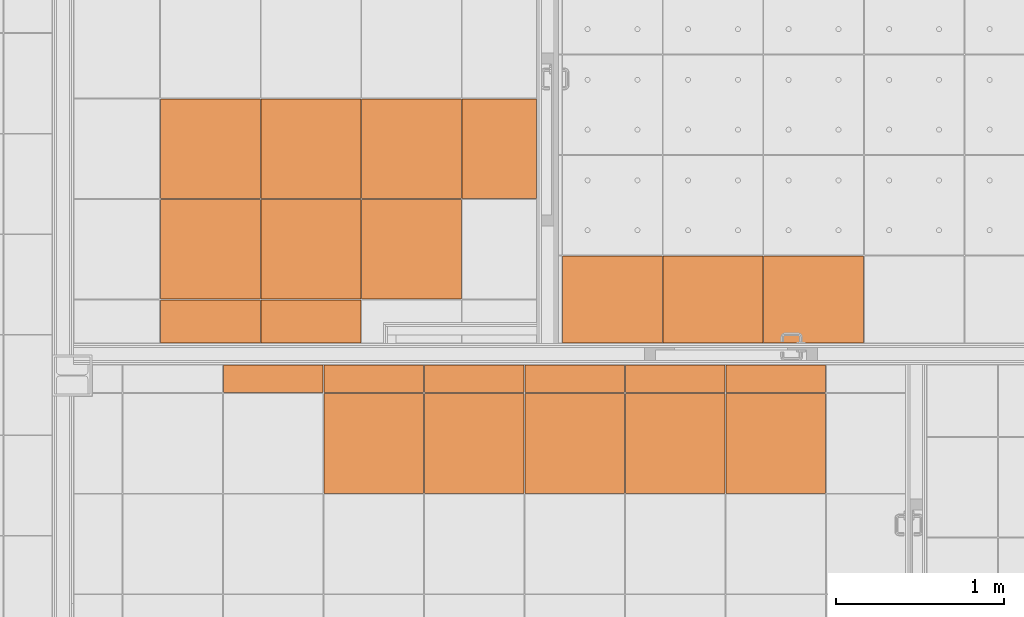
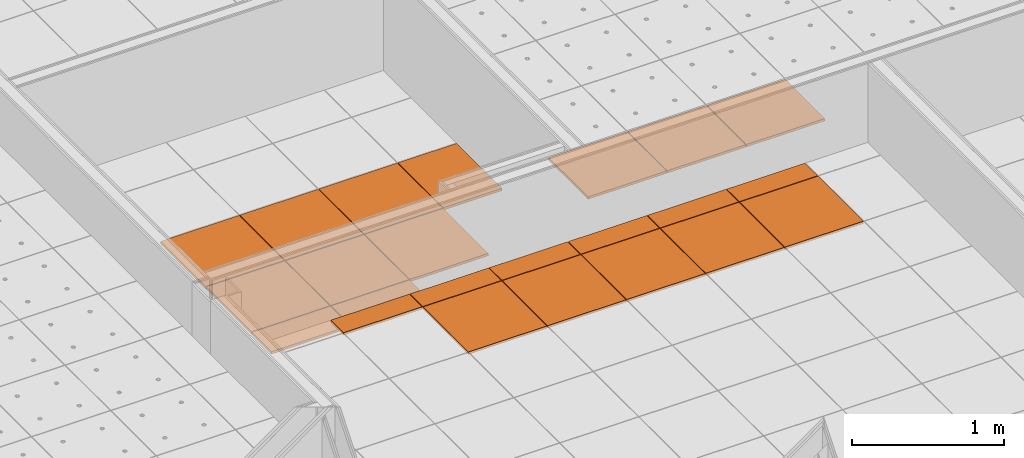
# One storey, part 284 of 338: 23 proxies, 3 elements without a shape of their own.
"""IFC2X3 building model written with IfcOpenShell, lengths in millimetres."""

from ifc_helpers import new_model, entity, si_unit, converted_unit, derived_unit, money_unit, direction, frame, origin_with_axes, place, context, subcontext, project, spatial, faceted_brep, source, transform, mapped, material, type_object, type_shapes, element, aggregate, save


model = new_model("IFC2X3")

# Units and contexts
model_context = context("Model", 3, precision=0.01, world=origin_with_axes(), true_north=direction((0.0, 1.0)))
plan_context = context("Plan", 3, precision=0.01, world=origin_with_axes(), true_north=direction((0.0, 1.0)))
body_context = subcontext(model_context, "Body", "Model", "MODEL_VIEW")
ifc_project = project(units=[si_unit("LENGTHUNIT", "METRE", prefix="MILLI"), si_unit("AREAUNIT", "SQUARE_METRE"), si_unit("VOLUMEUNIT", "CUBIC_METRE"), converted_unit("PLANEANGLEUNIT", "DEGREE", entity("IfcPlaneAngleMeasure", 0.0174532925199), si_unit("PLANEANGLEUNIT", "RADIAN"), dimensions=[0, 0, 0, 0, 0, 0, 0]), money_unit("EUR"), converted_unit("TIMEUNIT", "Year", entity("IfcTimeMeasure", 31556926.0), si_unit("TIMEUNIT", "SECOND"), dimensions=[0, 0, 1, 0, 0, 0, 0]), si_unit("MASSUNIT", "GRAM", prefix="KILO"), si_unit("THERMODYNAMICTEMPERATUREUNIT", "DEGREE_CELSIUS"), si_unit("LUMINOUSINTENSITYUNIT", "LUMEN"), si_unit("ENERGYUNIT", "JOULE", prefix="MEGA"), derived_unit("THERMALCONDUCTANCEUNIT", [(si_unit("POWERUNIT", "WATT"), 1), (si_unit("LENGTHUNIT", "METRE"), -1), (si_unit("THERMODYNAMICTEMPERATUREUNIT", "KELVIN"), -1)]), derived_unit("SPECIFICHEATCAPACITYUNIT", [(si_unit("ENERGYUNIT", "JOULE"), 1), (si_unit("MASSUNIT", "GRAM", prefix="KILO"), -1), (si_unit("THERMODYNAMICTEMPERATUREUNIT", "KELVIN"), -1)]), derived_unit("MASSDENSITYUNIT", [(si_unit("MASSUNIT", "GRAM", prefix="KILO"), 1), (si_unit("VOLUMEUNIT", "CUBIC_METRE"), -1)])], contexts=[model_context, plan_context])

# Site, building, storey
site_placement = place(None, origin_with_axes())
site = spatial("IfcSite", under=ifc_project, at=site_placement, Name="Fortuinstraat Woensdrecht", CompositionType="ELEMENT")
building_placement = place(site_placement, origin_with_axes())
building = spatial("IfcBuilding", under=site, at=building_placement, Name="IKC Fortuna", CompositionType="ELEMENT")
storey_placement = place(building_placement, origin_with_axes())
storey = spatial("IfcBuildingStorey", under=building, at=storey_placement, Name="00 begane grond", CompositionType="ELEMENT", Elevation=0.0)

# Covering, proxies
covering_type = type_object("IfcCoveringType", Name="Curtain Wall Type", PredefinedType="CEILING")
covering_1_placement = place(storey_placement, frame((20835.6898058, 28819.9024925, 2810.0), z_axis=(0.0, 0.0, 1.0), x_axis=(1.0, 0.0, 0.0)))
covering_1 = element("IfcCovering", 1, at=covering_1_placement, inside=storey, type_object=covering_type, Name="45_Plafondafwerking_P02", PredefinedType="CEILING")
ifc_material = material(Name="Gipsplaat")
building_element_proxy_type_1 = type_object("IfcBuildingElementProxyType", Name="Distinct Panel 600 x 600 x 20", PredefinedType="NOTDEFINED")
shared_shape_1 = source(origin_with_axes(), body_context, "Body", "Brep", [
    faceted_brep([(2.49999999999, 2.5, -10.0), (597.5, 2.49999999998, -10.0), (597.5, 2.49999999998, 10.0), (2.49999999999, 2.5, 10.0), (2.50000000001, 597.5, -10.0), (597.5, 597.5, -10.0), (597.5, 597.5, 10.0), (2.50000000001, 597.5, 10.0)], [[[0, 1, 2, 3]], [[0, 4, 5, 1]], [[1, 5, 6, 2]], [[3, 2, 6, 7]], [[4, 0, 3, 7]], [[5, 4, 7, 6]]]),
])
proxy_1_placement = place(covering_1_placement, frame((558.754846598, 600.0, 0.0), z_axis=(0.0, 0.0, 1.0), x_axis=(1.0, 0.0, 0.0)))
proxy_1 = element("IfcBuildingElementProxy", 2, at=proxy_1_placement, type_object=building_element_proxy_type_1, material=ifc_material, Name="__Panel-D", context=body_context, shape_type="MappedRepresentation", body=[
    mapped(shared_shape_1, transform((300.0, 300.0, 0.0), x_axis=(-1.0, 0.0, 0.0), y_axis=(0.0, -1.0, 0.0), z_axis=(0.0, 0.0, 1.0))),
])
proxy_2_placement = place(covering_1_placement, frame((1158.7548466, 0.0, 0.0), z_axis=(0.0, 0.0, 1.0), x_axis=(1.0, 0.0, 0.0)))
proxy_2 = element("IfcBuildingElementProxy", 3, at=proxy_2_placement, type_object=building_element_proxy_type_1, material=ifc_material, Name="__Panel-D", context=body_context, shape_type="MappedRepresentation", body=[
    mapped(shared_shape_1, transform((300.0, 300.0, 0.0), x_axis=(-1.0, 0.0, 0.0), y_axis=(0.0, -1.0, 0.0), z_axis=(0.0, 0.0, 1.0))),
])
proxy_3_placement = place(covering_1_placement, frame((1158.7548466, 600.0, 0.0), z_axis=(0.0, 0.0, 1.0), x_axis=(1.0, 0.0, 0.0)))
proxy_3 = element("IfcBuildingElementProxy", 4, at=proxy_3_placement, type_object=building_element_proxy_type_1, material=ifc_material, Name="__Panel-D", context=body_context, shape_type="MappedRepresentation", body=[
    mapped(shared_shape_1, transform((300.0, 300.0, 0.0), x_axis=(-1.0, 0.0, 0.0), y_axis=(0.0, -1.0, 0.0), z_axis=(0.0, 0.0, 1.0))),
])
shared_shape_2 = source(origin_with_axes(), body_context, "Body", "Brep", [
    faceted_brep([(2.5000069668, 2.4999963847, -10.0), (597.499995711, 2.50000275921, -10.0), (597.499995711, 2.50000275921, 10.0), (2.5000069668, 2.4999963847, 10.0), (2.50000214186, 597.499967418, -10.0), (597.499990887, 597.499973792, -10.0), (597.499990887, 597.499973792, 10.0), (2.50000214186, 597.499967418, 10.0)], [[[0, 1, 2, 3]], [[0, 4, 5, 1]], [[1, 5, 6, 2]], [[3, 2, 6, 7]], [[4, 0, 3, 7]], [[5, 4, 7, 6]]]),
])
proxy_4_placement = place(covering_1_placement, frame((558.754846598, 0.0, 0.0), z_axis=(0.0, 0.0, 1.0), x_axis=(1.0, 0.0, 0.0)))
proxy_4 = element("IfcBuildingElementProxy", 5, at=proxy_4_placement, type_object=building_element_proxy_type_1, material=ifc_material, Name="__Panel-D", context=body_context, shape_type="MappedRepresentation", body=[
    mapped(shared_shape_2, transform((300.0, 300.0, 0.0), x_axis=(-1.0, 0.0, 0.0), y_axis=(0.0, -1.0, 0.0), z_axis=(0.0, 0.0, 1.0))),
])
proxy_5_placement = place(covering_1_placement, frame((1758.7548466, 0.0, 0.0), z_axis=(0.0, 0.0, 1.0), x_axis=(1.0, 0.0, 0.0)))
proxy_5 = element("IfcBuildingElementProxy", 6, at=proxy_5_placement, type_object=building_element_proxy_type_1, material=ifc_material, Name="__Panel-D", context=body_context, shape_type="MappedRepresentation", body=[
    mapped(shared_shape_2, transform((300.0, 300.0, 0.0), x_axis=(-1.0, 0.0, 0.0), y_axis=(0.0, -1.0, 0.0), z_axis=(0.0, 0.0, 1.0))),
])
proxy_6_placement = place(covering_1_placement, frame((1758.7548466, 600.0, 0.0), z_axis=(0.0, 0.0, 1.0), x_axis=(1.0, 0.0, 0.0)))
proxy_6 = element("IfcBuildingElementProxy", 7, at=proxy_6_placement, type_object=building_element_proxy_type_1, material=ifc_material, Name="__Panel-D", context=body_context, shape_type="MappedRepresentation", body=[
    mapped(shared_shape_2, transform((300.0, 300.0, 0.0), x_axis=(-1.0, 0.0, 0.0), y_axis=(0.0, -1.0, 0.0), z_axis=(0.0, 0.0, 1.0))),
])

covering_2_placement = place(storey_placement, frame((21169.4446171, 27661.0834994, 3010.0), z_axis=(0.0, 0.0, 1.0), x_axis=(1.0, 0.0, 0.0)))
covering_2 = element("IfcCovering", 8, at=covering_2_placement, inside=storey, type_object=covering_type, Name="45_Plafondafwerking_P04", PredefinedType="CEILING")
shared_shape_3 = source(origin_with_axes(), body_context, "Body", "Brep", [
    faceted_brep([(-2.49999999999, 2.5, -10.0), (-2.49999999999, 2.5, 10.0), (-597.5, 2.49999999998, 10.0), (-597.5, 2.49999999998, -10.0), (-2.50000000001, 597.5, -10.0), (-2.50000000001, 597.5, 10.0), (-597.5, 597.5, 10.0), (-597.5, 597.5, -10.0)], [[[0, 1, 2, 3]], [[4, 5, 1, 0]], [[1, 5, 6, 2]], [[3, 2, 6, 7]], [[0, 3, 7, 4]], [[7, 6, 5, 4]]]),
])
proxy_7_placement = place(covering_2_placement, frame((2400.0, 0.0, 0.0), z_axis=(0.0, 0.0, 1.0), x_axis=(1.0, 0.0, 0.0)))
proxy_7 = element("IfcBuildingElementProxy", 9, at=proxy_7_placement, type_object=building_element_proxy_type_1, material=ifc_material, Name="__Panel-D", context=body_context, shape_type="MappedRepresentation", body=[
    mapped(shared_shape_3, transform((-300.0, 300.0, 0.0), x_axis=(-1.0, 0.0, 0.0), y_axis=(0.0, -1.0, 0.0), z_axis=(0.0, 0.0, 1.0))),
])
building_element_proxy_type_2 = type_object("IfcBuildingElementProxyType", Name="Distinct Panel 600 x 171 x 20", PredefinedType="NOTDEFINED")
shared_shape_4 = source(origin_with_axes(), body_context, "Body", "Brep", [
    faceted_brep([(-2.5, 431.18090623, -10.0), (-2.5, 431.18090623, 10.0), (-597.5, 431.18090623, 10.0), (-597.5, 431.18090623, -10.0), (-2.50000000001, 597.5, -10.0), (-2.50000000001, 597.5, 10.0), (-597.5, 597.5, 10.0), (-597.5, 597.5, -10.0)], [[[0, 1, 2, 3]], [[4, 5, 1, 0]], [[1, 5, 6, 2]], [[3, 2, 6, 7]], [[0, 3, 7, 4]], [[7, 6, 5, 4]]]),
])
proxy_8_placement = place(covering_2_placement, frame((3600.0, 385.659548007, 1.36335387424e-10), z_axis=(0.0, 0.0, 1.0), x_axis=(1.0, 0.0, 0.0)))
proxy_8 = element("IfcBuildingElementProxy", 10, at=proxy_8_placement, type_object=building_element_proxy_type_2, material=ifc_material, Name="__Panel-D", context=body_context, shape_type="MappedRepresentation", body=[
    mapped(shared_shape_4, transform((-300.0, 514.340451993, 0.0), x_axis=(-1.0, 0.0, 0.0), y_axis=(0.0, -1.0, 0.0), z_axis=(0.0, 0.0, 1.0))),
])
proxy_9_placement = place(covering_2_placement, frame((3000.0, 385.659548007, 1.16795462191e-10), z_axis=(0.0, 0.0, 1.0), x_axis=(1.0, 0.0, 0.0)))
proxy_9 = element("IfcBuildingElementProxy", 11, at=proxy_9_placement, type_object=building_element_proxy_type_2, material=ifc_material, Name="__Panel-D", context=body_context, shape_type="MappedRepresentation", body=[
    mapped(shared_shape_4, transform((-300.0, 514.340451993, 0.0), x_axis=(-1.0, 0.0, 0.0), y_axis=(0.0, -1.0, 0.0), z_axis=(0.0, 0.0, 1.0))),
])
proxy_10_placement = place(covering_2_placement, frame((2400.0, 385.659548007, 0.0), z_axis=(0.0, 0.0, 1.0), x_axis=(1.0, 0.0, 0.0)))
proxy_10 = element("IfcBuildingElementProxy", 12, at=proxy_10_placement, type_object=building_element_proxy_type_2, material=ifc_material, Name="__Panel-D", context=body_context, shape_type="MappedRepresentation", body=[
    mapped(shared_shape_4, transform((-300.0, 514.340451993, 0.0), x_axis=(-1.0, 0.0, 0.0), y_axis=(0.0, -1.0, 0.0), z_axis=(0.0, 0.0, 1.0))),
])
shared_shape_5 = source(origin_with_axes(), body_context, "Body", "Brep", [
    faceted_brep([(-2.50000188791, 2.50000518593, -10.0), (-2.50000188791, 2.50000518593, 10.0), (-597.499994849, 2.50000192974, 10.0), (-597.499994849, 2.50000192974, -10.0), (-2.50000514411, 597.499998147, -10.0), (-2.50000514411, 597.499998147, 10.0), (-597.499998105, 597.499994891, 10.0), (-597.499998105, 597.499994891, -10.0)], [[[0, 1, 2, 3]], [[4, 5, 1, 0]], [[1, 5, 6, 2]], [[3, 2, 6, 7]], [[0, 3, 7, 4]], [[7, 6, 5, 4]]]),
])
proxy_11_placement = place(covering_2_placement, frame((3600.0, -1.38555833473e-10, 1.36335387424e-10), z_axis=(0.0, 0.0, 1.0), x_axis=(1.0, 0.0, 0.0)))
proxy_11 = element("IfcBuildingElementProxy", 13, at=proxy_11_placement, type_object=building_element_proxy_type_1, material=ifc_material, Name="__Panel-D", context=body_context, shape_type="MappedRepresentation", body=[
    mapped(shared_shape_5, transform((-300.0, 300.0, 0.0), x_axis=(-1.0, 0.0, 0.0), y_axis=(0.0, -1.0, 0.0), z_axis=(0.0, 0.0, 1.0))),
])
proxy_12_placement = place(covering_2_placement, frame((3000.0, -1.13686837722e-10, 1.16795462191e-10), z_axis=(0.0, 0.0, 1.0), x_axis=(1.0, 0.0, 0.0)))
proxy_12 = element("IfcBuildingElementProxy", 14, at=proxy_12_placement, type_object=building_element_proxy_type_1, material=ifc_material, Name="__Panel-D", context=body_context, shape_type="MappedRepresentation", body=[
    mapped(shared_shape_5, transform((-300.0, 300.0, 0.0), x_axis=(-1.0, 0.0, 0.0), y_axis=(0.0, -1.0, 0.0), z_axis=(0.0, 0.0, 1.0))),
])
shared_shape_6 = source(origin_with_axes(), body_context, "Body", "Brep", [
    faceted_brep([(-2.5, 431.18090623, -10.0), (-2.5, 431.18090623, 10.0), (-597.5, 431.18090623, 10.0), (-597.5, 431.18090623, -10.0), (-2.50000000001, 597.5, -10.0), (-2.50000000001, 597.5, 10.0), (-597.5, 597.5, 10.0), (-597.5, 597.5, -10.0)], [[[0, 1, 2, 3]], [[4, 5, 1, 0]], [[1, 5, 6, 2]], [[3, 2, 6, 7]], [[0, 3, 7, 4]], [[7, 6, 5, 4]]]),
])
proxy_13_placement = place(covering_2_placement, frame((1200.0, 385.659548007, 0.0), z_axis=(0.0, 0.0, 1.0), x_axis=(1.0, 0.0, 0.0)))
proxy_13 = element("IfcBuildingElementProxy", 15, at=proxy_13_placement, type_object=building_element_proxy_type_2, material=ifc_material, Name="__Panel-D", context=body_context, shape_type="MappedRepresentation", body=[
    mapped(shared_shape_6, transform((-300.0, 514.340451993, 0.0), x_axis=(-1.0, 0.0, 0.0), y_axis=(0.0, -1.0, 0.0), z_axis=(0.0, 0.0, 1.0))),
])
shared_shape_7 = source(origin_with_axes(), body_context, "Body", "Brep", [
    faceted_brep([(-2.5000069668, 2.4999963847, -10.0), (-2.5000069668, 2.4999963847, 10.0), (-597.499995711, 2.50000275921, 10.0), (-597.499995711, 2.50000275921, -10.0), (-2.50000214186, 597.499967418, -10.0), (-2.50000214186, 597.499967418, 10.0), (-597.499990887, 597.499973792, 10.0), (-597.499990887, 597.499973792, -10.0)], [[[0, 1, 2, 3]], [[4, 5, 1, 0]], [[1, 5, 6, 2]], [[3, 2, 6, 7]], [[0, 3, 7, 4]], [[7, 6, 5, 4]]]),
])
type_shapes(building_element_proxy_type_1, [shared_shape_1, shared_shape_2, shared_shape_3, shared_shape_5, shared_shape_7])
proxy_14_placement = place(covering_2_placement, frame((1800.0, 0.0, 0.0), z_axis=(0.0, 0.0, 1.0), x_axis=(1.0, 0.0, 0.0)))
proxy_14 = element("IfcBuildingElementProxy", 16, at=proxy_14_placement, type_object=building_element_proxy_type_1, material=ifc_material, Name="__Panel-D", context=body_context, shape_type="MappedRepresentation", body=[
    mapped(shared_shape_7, transform((-300.0, 300.0, 0.0), x_axis=(-1.0, 0.0, 0.0), y_axis=(0.0, -1.0, 0.0), z_axis=(0.0, 0.0, 1.0))),
])
proxy_15_placement = place(covering_2_placement, frame((1200.0, 0.0, 0.0), z_axis=(0.0, 0.0, 1.0), x_axis=(1.0, 0.0, 0.0)))
proxy_15 = element("IfcBuildingElementProxy", 17, at=proxy_15_placement, type_object=building_element_proxy_type_1, material=ifc_material, Name="__Panel-D", context=body_context, shape_type="MappedRepresentation", body=[
    mapped(shared_shape_7, transform((-300.0, 300.0, 0.0), x_axis=(-1.0, 0.0, 0.0), y_axis=(0.0, -1.0, 0.0), z_axis=(0.0, 0.0, 1.0))),
])
shared_shape_8 = source(origin_with_axes(), body_context, "Body", "Brep", [
    faceted_brep([(-2.5, 431.18090623, -10.0), (-2.5, 431.18090623, 10.0), (-597.5, 431.18090623, 10.0), (-597.5, 431.18090623, -10.0), (-2.50000000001, 597.5, -10.0), (-2.50000000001, 597.5, 10.0), (-597.5, 597.5, 10.0), (-597.5, 597.5, -10.0)], [[[0, 1, 2, 3]], [[4, 5, 1, 0]], [[1, 5, 6, 2]], [[3, 2, 6, 7]], [[0, 3, 7, 4]], [[7, 6, 5, 4]]]),
])
type_shapes(building_element_proxy_type_2, [shared_shape_4, shared_shape_6, shared_shape_8])
proxy_16_placement = place(covering_2_placement, frame((1800.0, 385.659548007, 0.0), z_axis=(0.0, 0.0, 1.0), x_axis=(1.0, 0.0, 0.0)))
proxy_16 = element("IfcBuildingElementProxy", 18, at=proxy_16_placement, type_object=building_element_proxy_type_2, material=ifc_material, Name="__Panel-D", context=body_context, shape_type="MappedRepresentation", body=[
    mapped(shared_shape_8, transform((-300.0, 514.340451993, 0.0), x_axis=(-1.0, 0.0, 0.0), y_axis=(0.0, -1.0, 0.0), z_axis=(0.0, 0.0, 1.0))),
])
proxy_17_placement = place(covering_2_placement, frame((600.0, 385.659548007, 0.0), z_axis=(0.0, 0.0, 1.0), x_axis=(1.0, 0.0, 0.0)))
proxy_17 = element("IfcBuildingElementProxy", 19, at=proxy_17_placement, type_object=building_element_proxy_type_2, material=ifc_material, Name="__Panel-D", context=body_context, shape_type="MappedRepresentation", body=[
    mapped(shared_shape_8, transform((-300.0, 514.340451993, 0.0), x_axis=(-1.0, 0.0, 0.0), y_axis=(0.0, -1.0, 0.0), z_axis=(0.0, 0.0, 1.0))),
])
aggregate(covering_2, [proxy_8, proxy_11, proxy_9, proxy_14, proxy_16, proxy_7, proxy_12, proxy_15, proxy_13, proxy_17, proxy_10])

# Proxy
building_element_proxy_type_3 = type_object("IfcBuildingElementProxyType", Name="Distinct Panel 450 x 600 x 20", PredefinedType="NOTDEFINED")
shared_shape_9 = source(origin_with_axes(), body_context, "Body", "Brep", [
    faceted_brep([(152.589639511, 2.5, -10.0), (597.5, 2.49999999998, -10.0), (597.5, 2.49999999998, 10.0), (152.589639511, 2.5, 10.0), (152.589639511, 597.5, -10.0), (597.5, 597.5, -10.0), (597.5, 597.5, 10.0), (152.589639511, 597.5, 10.0)], [[[0, 1, 2, 3]], [[0, 4, 5, 1]], [[1, 5, 6, 2]], [[3, 2, 6, 7]], [[4, 0, 3, 7]], [[5, 4, 7, 6]]]),
])
type_shapes(building_element_proxy_type_3, [shared_shape_9])
proxy_18_placement = place(covering_1_placement, frame((2283.71002588, 600.0, 0.0), z_axis=(0.0, 0.0, 1.0), x_axis=(1.0, 0.0, 0.0)))
proxy_18 = element("IfcBuildingElementProxy", 20, at=proxy_18_placement, type_object=building_element_proxy_type_3, material=ifc_material, Name="__Panel-D", context=body_context, shape_type="MappedRepresentation", body=[
    mapped(shared_shape_9, transform((375.044820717, 300.0, 0.0), x_axis=(-1.0, 0.0, 0.0), y_axis=(0.0, -1.0, 0.0), z_axis=(0.0, 0.0, 1.0))),
])

building_element_proxy_type_4 = type_object("IfcBuildingElementProxyType", Name="Distinct Panel 600 x 262 x 20", PredefinedType="NOTDEFINED")
shared_shape_10 = source(origin_with_axes(), body_context, "Body", "Brep", [
    faceted_brep([(2.5, 2.50000080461, -10.0), (597.5, 2.5000008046, -10.0), (597.5, 2.5000008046, 10.0), (2.5, 2.50000080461, 10.0), (2.5, 259.999902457, -10.0), (597.5, 259.999902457, -10.0), (597.5, 259.999902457, 10.0), (2.5, 259.999902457, 10.0)], [[[0, 1, 2, 3]], [[0, 4, 5, 1]], [[1, 5, 6, 2]], [[3, 2, 6, 7]], [[4, 0, 3, 7]], [[5, 4, 7, 6]]]),
])
type_shapes(building_element_proxy_type_4, [shared_shape_10])
proxy_19_placement = place(covering_1_placement, frame((558.754846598, -431.249951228, 0.0), z_axis=(0.0, 0.0, 1.0), x_axis=(1.0, 0.0, 0.0)))
proxy_19 = element("IfcBuildingElementProxy", 21, at=proxy_19_placement, type_object=building_element_proxy_type_4, material=ifc_material, Name="__Panel-D", context=body_context, shape_type="MappedRepresentation", body=[
    mapped(shared_shape_10, transform((300.0, 131.249951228, 0.0), x_axis=(-1.0, 0.0, 0.0), y_axis=(0.0, -1.0, 0.0), z_axis=(0.0, 0.0, 1.0))),
])

proxy_20_placement = place(covering_1_placement, frame((1158.7548466, -431.249951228, 0.0), z_axis=(0.0, 0.0, 1.0), x_axis=(1.0, 0.0, 0.0)))
proxy_20 = element("IfcBuildingElementProxy", 22, at=proxy_20_placement, type_object=building_element_proxy_type_4, material=ifc_material, Name="__Panel-D", context=body_context, shape_type="MappedRepresentation", body=[
    mapped(shared_shape_10, transform((300.0, 131.249951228, 0.0), x_axis=(-1.0, 0.0, 0.0), y_axis=(0.0, -1.0, 0.0), z_axis=(0.0, 0.0, 1.0))),
])

aggregate(covering_1, [proxy_19, proxy_1, proxy_18, proxy_2, proxy_4, proxy_5, proxy_6, proxy_3, proxy_20])

# Covering, proxies
covering_3_placement = place(storey_placement, frame((24394.3550152, 31482.3495284, 3210.0), z_axis=(0.0, 0.0, 1.0), x_axis=(1.0, 0.0, 0.0)))
covering_3 = element("IfcCovering", 23, at=covering_3_placement, inside=storey, type_object=covering_type, Name="45_Plafondafwerking_P01", PredefinedType="CEILING")
building_element_proxy_type_5 = type_object("IfcBuildingElementProxyType", Name="600 x 525 x 20", PredefinedType="NOTDEFINED")
shared_shape_11 = source(origin_with_axes(), body_context, "Body", "Brep", [
    faceted_brep([(2.49999999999, 2.49999909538, -10.0), (597.5, 2.49999909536, -10.0), (597.5, 2.49999909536, 10.0), (2.49999999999, 2.49999909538, 10.0), (2.50000000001, 522.44694495, -10.0), (597.5, 522.44694495, -10.0), (597.5, 522.44694495, 10.0), (2.50000000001, 522.44694495, 10.0)], [[[0, 1, 2, 3]], [[0, 4, 5, 1]], [[1, 5, 6, 2]], [[3, 2, 6, 7]], [[4, 0, 3, 7]], [[5, 4, 7, 6]]]),
])
type_shapes(building_element_proxy_type_5, [shared_shape_11])
proxy_21_placement = place(covering_3_placement, frame((0.0, -2962.47347248, 1.46105350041e-10), z_axis=(0.0, 0.0, 1.0), x_axis=(1.0, 0.0, 0.0)))
proxy_21 = element("IfcBuildingElementProxy", 24, at=proxy_21_placement, type_object=building_element_proxy_type_5, material=ifc_material, Name="__600x625 Rockfon Krios", context=body_context, shape_type="MappedRepresentation", body=[
    mapped(shared_shape_11, transform((300.0, 262.473472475, 0.0), x_axis=(-1.0, 0.0, 0.0), y_axis=(0.0, -1.0, 0.0), z_axis=(0.0, 0.0, 1.0))),
])
proxy_22_placement = place(covering_3_placement, frame((600.0, -2962.47347248, 1.26121335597e-10), z_axis=(0.0, 0.0, 1.0), x_axis=(1.0, 0.0, 0.0)))
proxy_22 = element("IfcBuildingElementProxy", 25, at=proxy_22_placement, type_object=building_element_proxy_type_5, material=ifc_material, Name="__600x689 Rockfon Krios", context=body_context, shape_type="MappedRepresentation", body=[
    mapped(shared_shape_11, transform((300.0, 262.473472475, 0.0), x_axis=(-1.0, 0.0, 0.0), y_axis=(0.0, -1.0, 0.0), z_axis=(0.0, 0.0, 1.0))),
])
proxy_23_placement = place(covering_3_placement, frame((-600.0, -2962.47347248, 1.65645275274e-10), z_axis=(0.0, 0.0, 1.0), x_axis=(1.0, 0.0, 0.0)))
proxy_23 = element("IfcBuildingElementProxy", 26, at=proxy_23_placement, type_object=building_element_proxy_type_5, material=ifc_material, Name="__600x698 Rockfon Krios", context=body_context, shape_type="MappedRepresentation", body=[
    mapped(shared_shape_11, transform((300.0, 262.473472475, 0.0), x_axis=(-1.0, 0.0, 0.0), y_axis=(0.0, -1.0, 0.0), z_axis=(0.0, 0.0, 1.0))),
])
aggregate(covering_3, [proxy_21, proxy_22, proxy_23])

save(model, "model.ifc")
